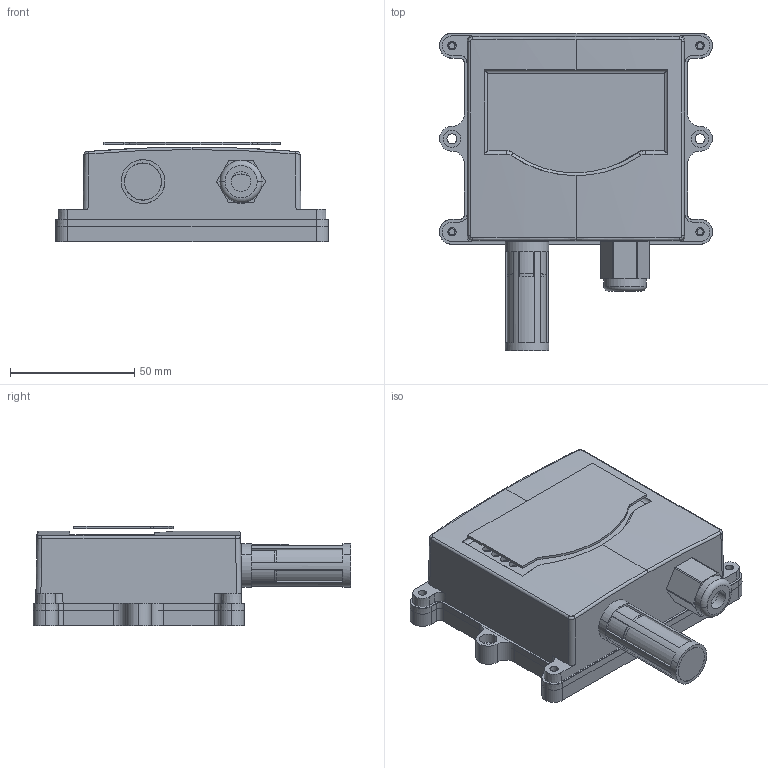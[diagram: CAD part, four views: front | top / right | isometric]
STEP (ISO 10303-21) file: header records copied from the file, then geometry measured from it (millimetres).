
FILE_DESCRIPTION (( 'STEP AP203' ), '1' );
FILE_NAME ('恲坁僅S1D.STEP', '2025-12-09T02:37:03', ( 'SJTF' ), ( 'Microsoft' ), 'SwSTEP 2.0', 'SolidWorks 2020', '' );
FILE_SCHEMA (( 'CONFIG_CONTROL_DESIGN' ));
Length unit declared in the file: millimetre
Products named in the file (8): 醱臚; dian; S1D_xiugai; 錨璃1芵ァ臚; T5蜊11-5; T5綴裔; 恲坁僅S1D; 坶踡芛
Assembly tree (7 placements, depth 2):
  恲坁僅S1D
    T5綴裔
    坶踡芛
    醱臚
    dian
    S1D_xiugai
    錨璃1芵ァ臚
    T5蜊11-5
Bounding box: 110.09 x 128.05 x 40 mm (x, y, z)
Volume: 77115.5 mm3; surface area: 79319.8 mm2
Topology: 14 solids, 14 shells, 692 faces, 1864 edges, 1222 vertices
Faces by surface type: plane 293, cylinder 237, cone 88, bspline 69, torus 5
Entity records: 30721 total; most frequent: CARTESIAN_POINT 12789, ORIENTED_EDGE 3728, DIRECTION 3379, EDGE_CURVE 1864, VERTEX_POINT 1222, AXIS2_PLACEMENT_3D 1216, VECTOR 947, LINE 947
